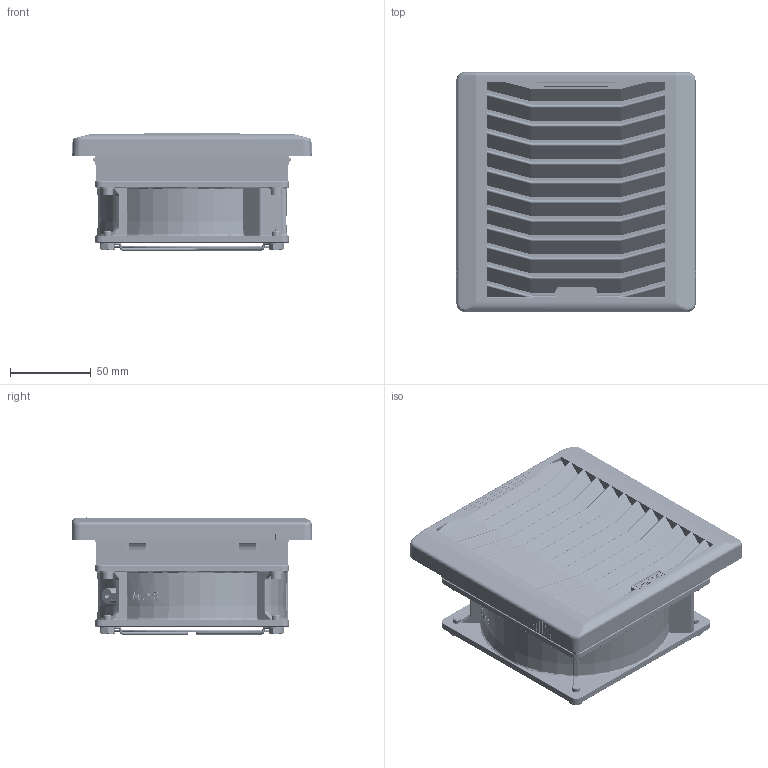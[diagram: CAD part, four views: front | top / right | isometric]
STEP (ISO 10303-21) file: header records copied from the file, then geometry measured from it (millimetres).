
FILE_DESCRIPTION(/* description */ (''),/* implementation_level */ '2;1');
FILE_NAME(/* name */ 'D:\Котлубовский\Впускные решётки\KIPVENT-200.01.230\KIPVENT-200.01.230 Решётка в сборе.stp',/* time_stamp */ '2022-02-28T20:40:52+07:00',/* author */ ('YURY_'),/* organization */ (''),/* preprocessor_version */ 'ST-DEVELOPER v17.2',/* originating_system */ 'Autodesk Inventor 2019',/* authorisation */ '');
FILE_SCHEMA (('AUTOMOTIVE_DESIGN { 1 0 10303 214 3 1 1 }'));
Products named in the file (18): KIPVENT-200.01.230 Решётка 
в сборе; KIPVENT-200.01.300 Выпускная решётка 
в сборе; KIPVENT-200.01.300 Крышка; KIPVENT-200.01.300 Заглушка; KIPVENT-200.01.300 Корпус; KIPVENT-200.01.300 Фильтр; VENT-120.mg; VENT-12038.220VAC.5MSMB Вентилятор 
в сборе; Корпус VENT-12038.220VAC.5M
SLB; Крышка VENT-12038.220VAC.5M
SLB; Короб штекера 
VENT-12038.220VAC.5MSLB; Планка штекера; Крыльчатка VENT
-12038.220VAC.5MSLB; Табличка VENT-12038.2
20VAC.5MSMB; Болт M5-6gx8 ГОСТ 
7805-70; Шайба 5 ГОСТ 
11371-78; Винт M4-6gx12 ГОСТ 
11738-84; Шайба 4 ГОСТ 
11371-78
Assembly tree (30 placements, depth 3):
  KIPVENT-200.01.230 Решётка 
в сборе
    KIPVENT-200.01.300 Выпускная решётка 
в сборе
      KIPVENT-200.01.300 Крышка
      KIPVENT-200.01.300 Заглушка
      KIPVENT-200.01.300 Корпус
      KIPVENT-200.01.300 Фильтр
    VENT-120.mg
    VENT-12038.220VAC.5MSMB Вентилятор 
в сборе
      Корпус VENT-12038.220VAC.5M
SLB
      Крышка VENT-12038.220VAC.5M
SLB
      Короб штекера 
VENT-12038.220VAC.5MSLB
      Планка штекера  x2
      Крыльчатка VENT
-12038.220VAC.5MSLB
      Табличка VENT-12038.2
20VAC.5MSMB
    Болт M5-6gx8 ГОСТ 
7805-70  x4
    Шайба 5 ГОСТ 
11371-78  x4
    Винт M4-6gx12 ГОСТ 
11738-84  x4
    Шайба 4 ГОСТ 
11371-78  x4
Bounding box: 149.5 x 149 x 72.8 mm (x, y, z)
Volume: 446888.5 mm3; surface area: 283857.1 mm2
Topology: 39 solids, 39 shells, 9839 faces, 24598 edges, 15237 vertices
Faces by surface type: plane 4468, bspline 3373, cylinder 1179, torus 409, sphere 210, cone 200
Full cylindrical faces by diameter (mm): 0.01 x1, 1 x2, 1.5 x23, 2.877 x1, 2.9 x2, 3.2 x13, 4 x6, 4.1 x8, 4.3 x4, 4.8 x8, 5 x4, 5.3 x4, 5.8 x16, 7 x5, 8.2 x1, 9 x4, 10 x4, 51 x1, 64.7 x1, 66.7 x1, 68.4 x1, 68.7 x1
Entity records: 340530 total; most frequent: CARTESIAN_POINT 128220, ORIENTED_EDGE 48356, DIRECTION 35053, EDGE_CURVE 24178, VERTEX_POINT 15003, LINE 13145, VECTOR 13145, AXIS2_PLACEMENT_3D 10954
